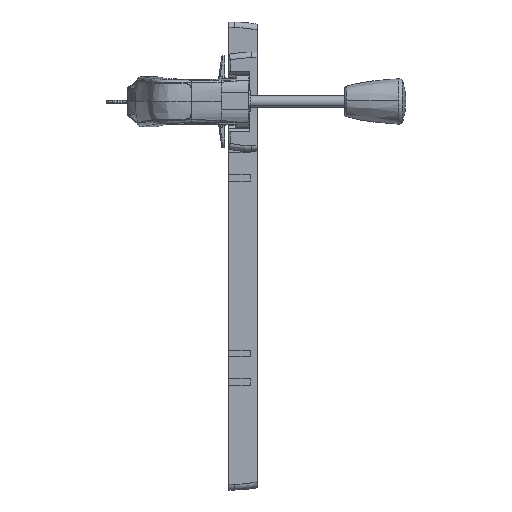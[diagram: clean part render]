
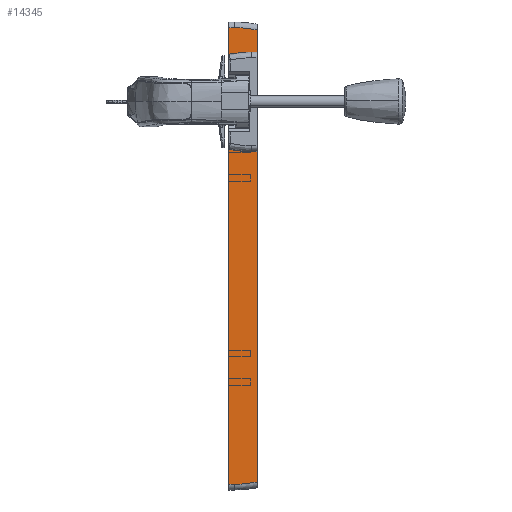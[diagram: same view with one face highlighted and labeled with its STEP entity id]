
A CAD part, top view. The second image highlights one B-rep face of the part: STEP entity #14345.
In plain terms, the highlighted planar face has unit normal (0, 0, 1) as drawn and (-1, 0, 0) by its records, which use the part's own axes.
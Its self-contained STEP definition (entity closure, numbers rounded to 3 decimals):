
#724 = VECTOR ( 'NONE', #5837, 1000. ) ;
#1075 = CARTESIAN_POINT ( 'NONE',  ( -20., 19.25, -15. ) ) ;
#2004 = LINE ( 'NONE', #25275, #34537 ) ;
#3534 = CIRCLE ( 'NONE', #19191, 76. ) ;
#4299 = DIRECTION ( 'NONE',  ( 0., -1., 0. ) ) ;
#5411 = DIRECTION ( 'NONE',  ( 0., 1., 0. ) ) ;
#5590 = AXIS2_PLACEMENT_3D ( 'NONE', #57073, #9886, #42979 ) ;
#5606 = VECTOR ( 'NONE', #37759, 1000. ) ;
#5782 = VERTEX_POINT ( 'NONE', #15463 ) ;
#5837 = DIRECTION ( 'NONE',  ( 0., 0., -1. ) ) ;
#6055 = CARTESIAN_POINT ( 'NONE',  ( -20., -19.25, -15. ) ) ;
#6612 = EDGE_CURVE ( 'NONE', #5782, #18384, #2004, .T. ) ;
#8400 = VECTOR ( 'NONE', #46084, 1000. ) ;
#8414 = AXIS2_PLACEMENT_3D ( 'NONE', #51590, #9603, #39886 ) ;
#8419 = VERTEX_POINT ( 'NONE', #51759 ) ;
#9275 = PLANE ( 'NONE',  #5590 ) ;
#9594 = DIRECTION ( 'NONE',  ( 0., 0., 1. ) ) ;
#9603 = DIRECTION ( 'NONE',  ( -1., 0., 0. ) ) ;
#9886 = DIRECTION ( 'NONE',  ( -1., 0., 0. ) ) ;
#10192 = DIRECTION ( 'NONE',  ( 0., -1., 0. ) ) ;
#10495 = LINE ( 'NONE', #51283, #50477 ) ;
#10803 = ORIENTED_EDGE ( 'NONE', *, *, #12731, .T. ) ;
#11556 = VERTEX_POINT ( 'NONE', #38661 ) ;
#12242 = CARTESIAN_POINT ( 'NONE',  ( -20., 19.25, -5. ) ) ;
#12372 = ORIENTED_EDGE ( 'NONE', *, *, #34675, .T. ) ;
#12731 = EDGE_CURVE ( 'NONE', #11556, #35931, #27006, .T. ) ;
#13513 = LINE ( 'NONE', #59181, #21210 ) ;
#14055 = CARTESIAN_POINT ( 'NONE',  ( -20., -267.797, 0. ) ) ;
#14345 = ADVANCED_FACE ( 'NONE', ( #37751, #56774 ), #9275, .T. ) ;
#14488 = EDGE_CURVE ( 'NONE', #30570, #45759, #13513, .T. ) ;
#15463 = CARTESIAN_POINT ( 'NONE',  ( -20., -19.25, -5. ) ) ;
#15587 = VERTEX_POINT ( 'NONE', #42649 ) ;
#16296 = CARTESIAN_POINT ( 'NONE',  ( -20., 19.25, -15. ) ) ;
#16941 = ORIENTED_EDGE ( 'NONE', *, *, #51270, .T. ) ;
#18384 = VERTEX_POINT ( 'NONE', #12242 ) ;
#18924 = CARTESIAN_POINT ( 'NONE',  ( -20., 50.797, 0. ) ) ;
#19078 = LINE ( 'NONE', #28857, #5606 ) ;
#19191 = AXIS2_PLACEMENT_3D ( 'NONE', #56386, #55483, #4299 ) ;
#20045 = DIRECTION ( 'NONE',  ( 0., 0., -1. ) ) ;
#21210 = VECTOR ( 'NONE', #26988, 1000. ) ;
#22413 = EDGE_LOOP ( 'NONE', ( #16941, #12372, #10803, #45790, #55774, #25826 ) ) ;
#22450 = EDGE_CURVE ( 'NONE', #46725, #15587, #25406, .T. ) ;
#25275 = CARTESIAN_POINT ( 'NONE',  ( -20., 19.25, -5. ) ) ;
#25330 = CARTESIAN_POINT ( 'NONE',  ( -20., 52.5, -16. ) ) ;
#25406 = LINE ( 'NONE', #43817, #724 ) ;
#25826 = ORIENTED_EDGE ( 'NONE', *, *, #22450, .T. ) ;
#26988 = DIRECTION ( 'NONE',  ( 0., -1., 0. ) ) ;
#27006 = CIRCLE ( 'NONE', #8414, 76. ) ;
#28857 = CARTESIAN_POINT ( 'NONE',  ( -20., -269.5, -20. ) ) ;
#29660 = EDGE_CURVE ( 'NONE', #18384, #30570, #43050, .T. ) ;
#30570 = VERTEX_POINT ( 'NONE', #16296 ) ;
#31225 = EDGE_LOOP ( 'NONE', ( #51854, #46948, #52359, #41059 ) ) ;
#32857 = LINE ( 'NONE', #51581, #46473 ) ;
#33381 = EDGE_CURVE ( 'NONE', #33861, #46725, #3534, .T. ) ;
#33861 = VERTEX_POINT ( 'NONE', #18924 ) ;
#34537 = VECTOR ( 'NONE', #5411, 1000. ) ;
#34675 = EDGE_CURVE ( 'NONE', #8419, #11556, #19078, .T. ) ;
#35931 = VERTEX_POINT ( 'NONE', #14055 ) ;
#37751 = FACE_OUTER_BOUND ( 'NONE', #22413, .T. ) ;
#37759 = DIRECTION ( 'NONE',  ( 0., 0., 1. ) ) ;
#38661 = CARTESIAN_POINT ( 'NONE',  ( -20., -269.5, -16. ) ) ;
#39886 = DIRECTION ( 'NONE',  ( 0., -1., 0. ) ) ;
#41059 = ORIENTED_EDGE ( 'NONE', *, *, #46363, .F. ) ;
#42649 = CARTESIAN_POINT ( 'NONE',  ( -20., 52.5, -20. ) ) ;
#42979 = DIRECTION ( 'NONE',  ( 0., -1., 0. ) ) ;
#43050 = LINE ( 'NONE', #1075, #47417 ) ;
#43817 = CARTESIAN_POINT ( 'NONE',  ( -20., 52.5, -20. ) ) ;
#45759 = VERTEX_POINT ( 'NONE', #6055 ) ;
#45788 = LINE ( 'NONE', #60501, #8400 ) ;
#45790 = ORIENTED_EDGE ( 'NONE', *, *, #51083, .F. ) ;
#46084 = DIRECTION ( 'NONE',  ( 0., -1., 0. ) ) ;
#46363 = EDGE_CURVE ( 'NONE', #45759, #5782, #32857, .T. ) ;
#46473 = VECTOR ( 'NONE', #9594, 1000. ) ;
#46725 = VERTEX_POINT ( 'NONE', #25330 ) ;
#46948 = ORIENTED_EDGE ( 'NONE', *, *, #29660, .F. ) ;
#47417 = VECTOR ( 'NONE', #20045, 1000. ) ;
#50477 = VECTOR ( 'NONE', #10192, 1000. ) ;
#51083 = EDGE_CURVE ( 'NONE', #33861, #35931, #45788, .T. ) ;
#51270 = EDGE_CURVE ( 'NONE', #15587, #8419, #10495, .T. ) ;
#51283 = CARTESIAN_POINT ( 'NONE',  ( -20., 56.5, -20. ) ) ;
#51581 = CARTESIAN_POINT ( 'NONE',  ( -20., -19.25, -15. ) ) ;
#51590 = CARTESIAN_POINT ( 'NONE',  ( -20., -193.5, -16. ) ) ;
#51759 = CARTESIAN_POINT ( 'NONE',  ( -20., -269.5, -20. ) ) ;
#51854 = ORIENTED_EDGE ( 'NONE', *, *, #14488, .F. ) ;
#52359 = ORIENTED_EDGE ( 'NONE', *, *, #6612, .F. ) ;
#55483 = DIRECTION ( 'NONE',  ( -1., 0., 0. ) ) ;
#55774 = ORIENTED_EDGE ( 'NONE', *, *, #33381, .T. ) ;
#56386 = CARTESIAN_POINT ( 'NONE',  ( -20., -23.5, -16. ) ) ;
#56774 = FACE_BOUND ( 'NONE', #31225, .T. ) ;
#57073 = CARTESIAN_POINT ( 'NONE',  ( -20., 56.5, -20. ) ) ;
#59181 = CARTESIAN_POINT ( 'NONE',  ( -20., 19.25, -15. ) ) ;
#60501 = CARTESIAN_POINT ( 'NONE',  ( -20., 56.5, 0. ) ) ;
